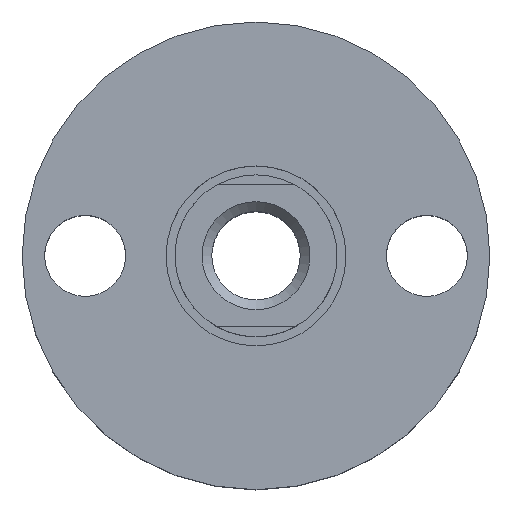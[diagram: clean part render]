
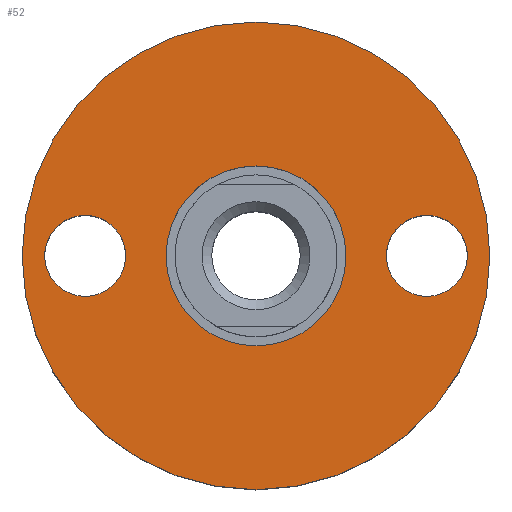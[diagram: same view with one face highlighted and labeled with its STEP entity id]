
A CAD part, top view. The second image highlights one B-rep face of the part: STEP entity #52.
In plain terms, the highlighted planar face has unit normal (0, 0, 1).
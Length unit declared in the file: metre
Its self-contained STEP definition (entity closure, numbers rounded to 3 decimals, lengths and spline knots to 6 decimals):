
#52 = ADVANCED_FACE( '', ( #111, #112, #113, #114 ), #115, .F. );
#111 = FACE_BOUND( '', #182, .T. );
#112 = FACE_BOUND( '', #183, .T. );
#113 = FACE_OUTER_BOUND( '', #184, .T. );
#114 = FACE_BOUND( '', #185, .T. );
#115 = PLANE( '', #186 );
#182 = EDGE_LOOP( '', ( #270 ) );
#183 = EDGE_LOOP( '', ( #271 ) );
#184 = EDGE_LOOP( '', ( #272 ) );
#185 = EDGE_LOOP( '', ( #273 ) );
#186 = AXIS2_PLACEMENT_3D( '', #274, #275, #276 );
#270 = ORIENTED_EDGE( '', *, *, #349, .F. );
#271 = ORIENTED_EDGE( '', *, *, #362, .F. );
#272 = ORIENTED_EDGE( '', *, *, #345, .T. );
#273 = ORIENTED_EDGE( '', *, *, #363, .T. );
#274 = CARTESIAN_POINT( '', ( 0., 0., 0.008 ) );
#275 = DIRECTION( '', ( 0., 0., -1. ) );
#276 = DIRECTION( '', ( 1., 0., 0. ) );
#345 = EDGE_CURVE( '', #390, #390, #391, .T. );
#349 = EDGE_CURVE( '', #397, #397, #398, .T. );
#362 = EDGE_CURVE( '', #418, #418, #419, .T. );
#363 = EDGE_CURVE( '', #420, #420, #421, .F. );
#390 = VERTEX_POINT( '', #453 );
#391 = CIRCLE( '', #454, 0.013 );
#397 = VERTEX_POINT( '', #460 );
#398 = CIRCLE( '', #461, 0.00225 );
#418 = VERTEX_POINT( '', #486 );
#419 = CIRCLE( '', #487, 0.00225 );
#420 = VERTEX_POINT( '', #488 );
#421 = CIRCLE( '', #489, 0.005 );
#453 = CARTESIAN_POINT( '', ( 0.013, 0., 0.008 ) );
#454 = AXIS2_PLACEMENT_3D( '', #521, #522, #523 );
#460 = CARTESIAN_POINT( '', ( -0.01175, 0., 0.008 ) );
#461 = AXIS2_PLACEMENT_3D( '', #530, #531, #532 );
#486 = CARTESIAN_POINT( '', ( 0.01175, 0., 0.008 ) );
#487 = AXIS2_PLACEMENT_3D( '', #550, #551, #552 );
#488 = CARTESIAN_POINT( '', ( 0.005, 0., 0.008 ) );
#489 = AXIS2_PLACEMENT_3D( '', #553, #554, #555 );
#521 = CARTESIAN_POINT( '', ( 0., 0., 0.008 ) );
#522 = DIRECTION( '', ( 0., 0., 1. ) );
#523 = DIRECTION( '', ( 1., 0., 0. ) );
#530 = CARTESIAN_POINT( '', ( -0.0095, 0., 0.008 ) );
#531 = DIRECTION( '', ( 0., 0., 1. ) );
#532 = DIRECTION( '', ( -1., 0., 0. ) );
#550 = CARTESIAN_POINT( '', ( 0.0095, 0., 0.008 ) );
#551 = DIRECTION( '', ( 0., 0., 1. ) );
#552 = DIRECTION( '', ( 1., 0., 0. ) );
#553 = CARTESIAN_POINT( '', ( 0., 0., 0.008 ) );
#554 = DIRECTION( '', ( 0., 0., 1. ) );
#555 = DIRECTION( '', ( 1., 0., 0. ) );
